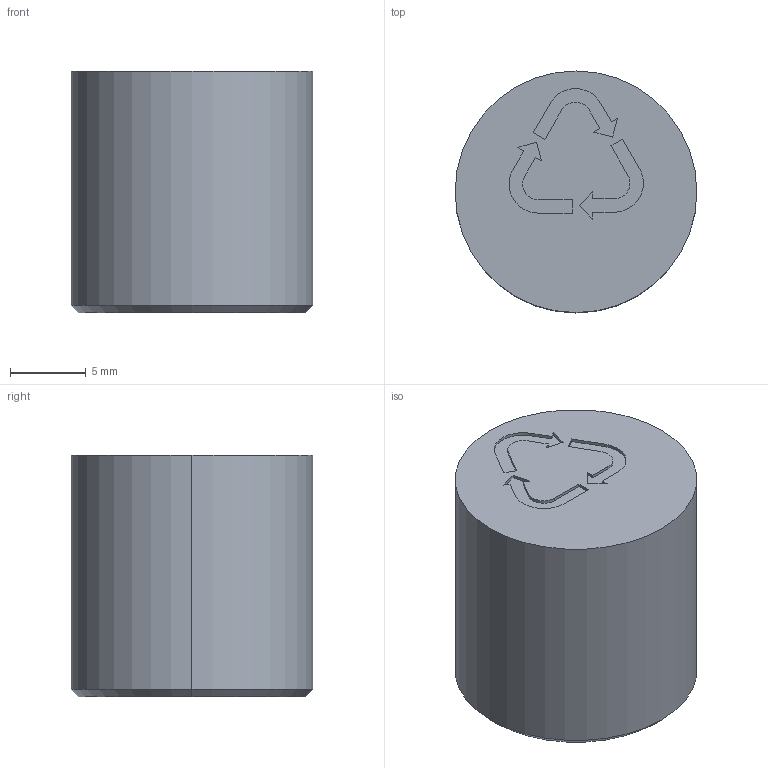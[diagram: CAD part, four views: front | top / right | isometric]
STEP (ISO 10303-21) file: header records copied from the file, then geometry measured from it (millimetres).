
FILE_DESCRIPTION (( 'STEP AP214' ), '1' );
FILE_NAME ('BruyRubio_IR_1616.STEP', '2019-12-19T17:35:12', ( '' ), ( '' ), 'SwSTEP 2.0', 'SolidWorks 2017', '' );
FILE_SCHEMA (( 'AUTOMOTIVE_DESIGN' ));
Length unit declared in the file: millimetre
Products named in the file (1): BruyRubio_IR_1616
Bounding box: 16 x 16 x 16 mm (x, y, z)
Volume: 3206.7 mm3; surface area: 1202.1 mm2
Topology: 1 solids, 1 shells, 44 faces, 115 edges, 76 vertices
Faces by surface type: plane 32, cylinder 10, cone 2
Entity records: 1863 total; most frequent: CARTESIAN_POINT 236, ORIENTED_EDGE 230, DIRECTION 227, EDGE_CURVE 115, LINE 93, VECTOR 93, VERTEX_POINT 76, AXIS2_PLACEMENT_3D 67
